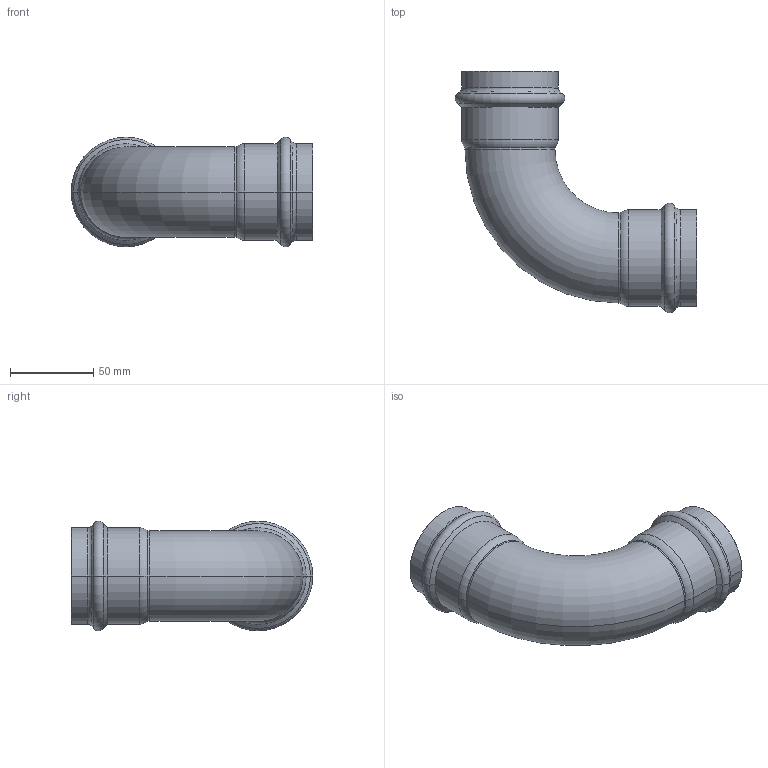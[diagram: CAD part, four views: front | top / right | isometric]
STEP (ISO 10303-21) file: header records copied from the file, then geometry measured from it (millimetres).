
FILE_DESCRIPTION(('CoCreate Modeling STEP Export'),'2;1');
FILE_NAME('8002VW54.stp','2013-01-29T13:47:36',(''),(''),'CoCreate Modeling STEP processor for AP214 (Solid Model)','CoCreate Modeling 17.00A 17-Jun-2010 (C) Parametric Technology GmbH','');
FILE_SCHEMA(('AUTOMOTIVE_DESIGN { 1 0 10303 214 1 1 1 1 }'));
Length unit declared in the file: millimetre
Products named in the file (1): 8002VW54
Bounding box: 144.91 x 144.82 x 65.68 mm (x, y, z)
Volume: 67525.4 mm3; surface area: 69980.8 mm2
Topology: 1 solids, 1 shells, 91 faces, 186 edges, 102 vertices
Faces by surface type: cylinder 28, cone 28, torus 28, plane 7
Entity records: 1938 total; most frequent: ORIENTED_EDGE 372, DIRECTION 312, CARTESIAN_POINT 286, EDGE_CURVE 186, AXIS2_PLACEMENT_3D 128, VERTEX_POINT 102, EDGE_LOOP 98, FACE_OUTER_BOUND 91
